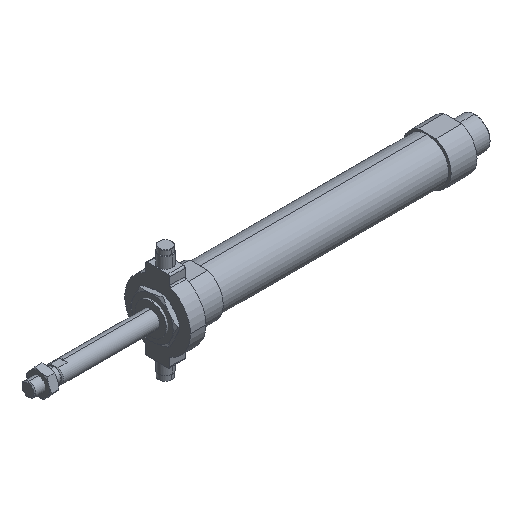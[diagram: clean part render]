
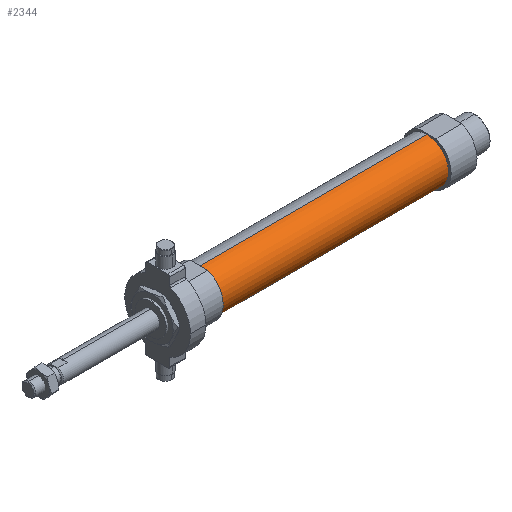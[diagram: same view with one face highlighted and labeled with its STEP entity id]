
A CAD part, isometric view. The second image highlights one B-rep face of the part: STEP entity #2344.
In plain terms, the highlighted cylindrical face has radius 12.5 mm (diameter 25 mm), a partial arc.
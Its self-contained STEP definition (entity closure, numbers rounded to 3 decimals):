
#89 = CYLINDRICAL_SURFACE ( 'NONE', #2242, 12.5 ) ;
#154 = FACE_OUTER_BOUND ( 'NONE', #455, .T. ) ;
#296 = DIRECTION ( 'NONE',  ( -1., 0., 0. ) ) ;
#392 = AXIS2_PLACEMENT_3D ( 'NONE', #1371, #3452, #4296 ) ;
#455 = EDGE_LOOP ( 'NONE', ( #868, #3892, #2474, #674 ) ) ;
#456 = EDGE_CURVE ( 'NONE', #2696, #1005, #1534, .T. ) ;
#501 = EDGE_CURVE ( 'NONE', #1005, #1052, #3503, .T. ) ;
#523 = DIRECTION ( 'NONE',  ( -1., 0., 0. ) ) ;
#560 = VECTOR ( 'NONE', #4091, 1000. ) ;
#674 = ORIENTED_EDGE ( 'NONE', *, *, #501, .F. ) ;
#778 = CARTESIAN_POINT ( 'NONE',  ( -6.469, 0., -12.5 ) ) ;
#868 = ORIENTED_EDGE ( 'NONE', *, *, #456, .F. ) ;
#1005 = VERTEX_POINT ( 'NONE', #2151 ) ;
#1052 = VERTEX_POINT ( 'NONE', #3081 ) ;
#1062 = EDGE_CURVE ( 'NONE', #2696, #2726, #1159, .T. ) ;
#1159 = CIRCLE ( 'NONE', #392, 12.5 ) ;
#1371 = CARTESIAN_POINT ( 'NONE',  ( 231., 0., 0. ) ) ;
#1534 = LINE ( 'NONE', #778, #560 ) ;
#1773 = VECTOR ( 'NONE', #523, 1000. ) ;
#2012 = EDGE_CURVE ( 'NONE', #2726, #1052, #2408, .T. ) ;
#2017 = CARTESIAN_POINT ( 'NONE',  ( 231., 0., -12.5 ) ) ;
#2107 = CARTESIAN_POINT ( 'NONE',  ( -6.469, 0., 12.5 ) ) ;
#2151 = CARTESIAN_POINT ( 'NONE',  ( 99., 0., -12.5 ) ) ;
#2164 = CARTESIAN_POINT ( 'NONE',  ( 99., 0., 0. ) ) ;
#2242 = AXIS2_PLACEMENT_3D ( 'NONE', #2548, #3041, #2546 ) ;
#2344 = ADVANCED_FACE ( 'NONE', ( #154 ), #89, .T. ) ;
#2408 = LINE ( 'NONE', #2107, #1773 ) ;
#2473 = DIRECTION ( 'NONE',  ( 0., 0., 1. ) ) ;
#2474 = ORIENTED_EDGE ( 'NONE', *, *, #2012, .T. ) ;
#2546 = DIRECTION ( 'NONE',  ( 0., 0., 1. ) ) ;
#2548 = CARTESIAN_POINT ( 'NONE',  ( -6.469, 0., 0. ) ) ;
#2564 = AXIS2_PLACEMENT_3D ( 'NONE', #2164, #296, #2473 ) ;
#2696 = VERTEX_POINT ( 'NONE', #2017 ) ;
#2726 = VERTEX_POINT ( 'NONE', #3743 ) ;
#3041 = DIRECTION ( 'NONE',  ( -1., 0., 0. ) ) ;
#3081 = CARTESIAN_POINT ( 'NONE',  ( 99., 0., 12.5 ) ) ;
#3452 = DIRECTION ( 'NONE',  ( -1., 0., 0. ) ) ;
#3503 = CIRCLE ( 'NONE', #2564, 12.5 ) ;
#3743 = CARTESIAN_POINT ( 'NONE',  ( 231., 0., 12.5 ) ) ;
#3892 = ORIENTED_EDGE ( 'NONE', *, *, #1062, .T. ) ;
#4091 = DIRECTION ( 'NONE',  ( -1., 0., 0. ) ) ;
#4296 = DIRECTION ( 'NONE',  ( 0., 0., 1. ) ) ;
